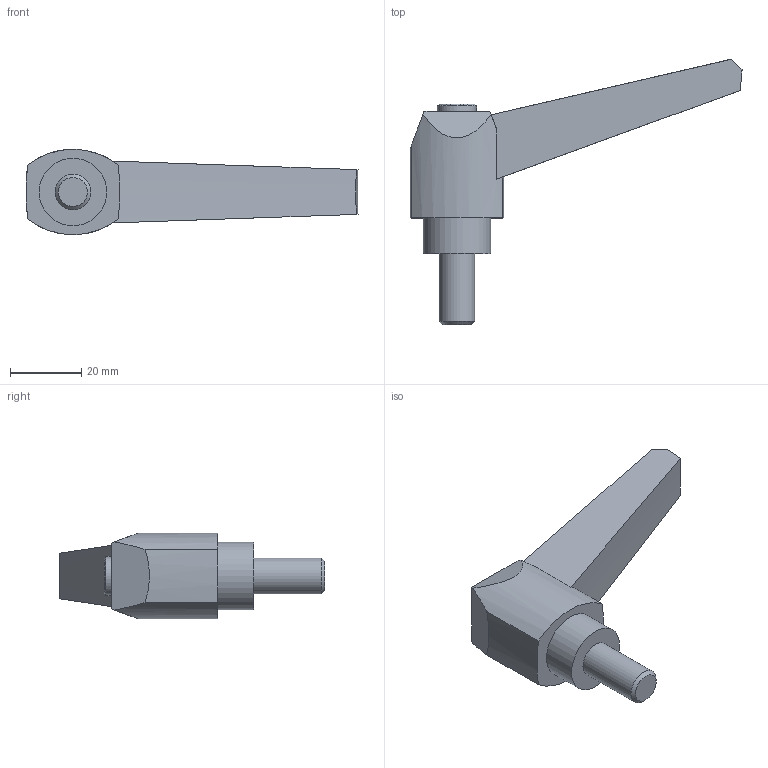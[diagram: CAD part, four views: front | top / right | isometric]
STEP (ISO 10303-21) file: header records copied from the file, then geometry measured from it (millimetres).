
FILE_DESCRIPTION( ( 'STEP AP203' ), '1' );
FILE_NAME( 'C:/Temp/Ganter_Step_05_03_2020/data/2_1/gn_500/gn_500_ms/Adjustable hand lever GN 500-80-M10-20-SW.stp', '2020-03-05T11:26:35', ( 'License CC BY-ND 4.0' ), ( 'CADENAS' ), ' ', 'PARTsolutions', ' ' );
FILE_SCHEMA( ( 'CONFIG_CONTROL_DESIGN' ) );
Length unit declared in the file: millimetre
Products named in the file (1): _Adjustable hand lever GN 500-80-M10-20-SW
Bounding box: 93.3 x 74.58 x 24 mm (x, y, z)
Volume: 34311.5 mm3; surface area: 8510.2 mm2
Topology: 1 solids, 1 shells, 24 faces, 56 edges, 37 vertices
Faces by surface type: plane 11, cylinder 7, cone 6
Full cylindrical faces by diameter (mm): 10 x1, 11 x1, 19 x1
Entity records: 709 total; most frequent: CARTESIAN_POINT 124, DIRECTION 118, ORIENTED_EDGE 100, EDGE_CURVE 50, AXIS2_PLACEMENT_3D 47, VERTEX_POINT 36, EDGE_LOOP 32, FACE_OUTER_BOUND 27
